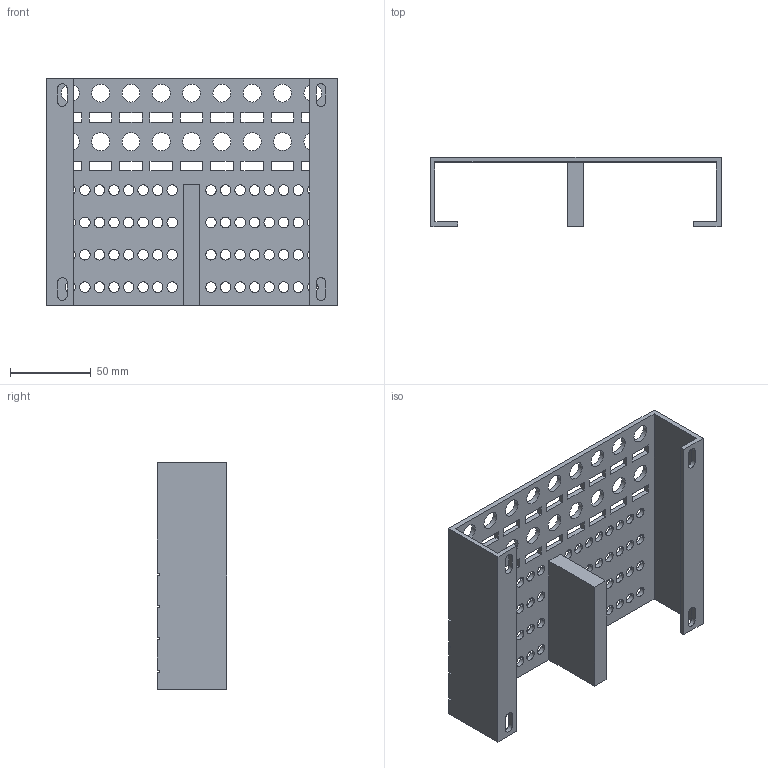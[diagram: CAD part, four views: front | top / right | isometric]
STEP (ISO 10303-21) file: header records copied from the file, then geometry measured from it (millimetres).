
FILE_DESCRIPTION(/* description */ (''),/* implementation_level */ '2;1');
FILE_NAME(/* name */ '/Users/davidflorian/Library/Mobile Documents/com~apple~CloudDocs/Vanderbilt/Papers/OTTO/Supplemental Material/3D-Printable-Components-STEP-Files/Epi-Tube-Holder.step',/* time_stamp */ '2020-06-30T23:03:29-05:00',/* author */ (''),/* organization */ (''),/* preprocessor_version */ 'ST-DEVELOPER v18.1',/* originating_system */ 'Autodesk Translation Framework v9.3.0.1241',/* authorisation */ '');
FILE_SCHEMA (('AUTOMOTIVE_DESIGN { 1 0 10303 214 3 1 1 }'));
Length unit declared in the file: millimetre
Products named in the file (1): Epi Holder v7
Bounding box: 179.5 x 43 x 140.3 mm (x, y, z)
Volume: 130653.9 mm3; surface area: 87720.1 mm2
Topology: 1 solids, 1 shells, 396 faces, 1374 edges, 916 vertices
Faces by surface type: plane 306, cylinder 90
Full cylindrical faces by diameter (mm): 6.5 x64, 11.05 x18
Entity records: 15383 total; most frequent: ORIENTED_EDGE 2748, CARTESIAN_POINT 2687, DIRECTION 2604, EDGE_CURVE 1374, LINE 938, VECTOR 938, VERTEX_POINT 916, AXIS2_PLACEMENT_3D 833
